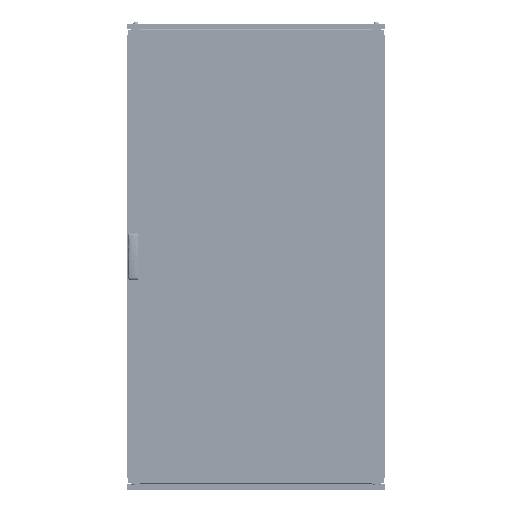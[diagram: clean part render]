
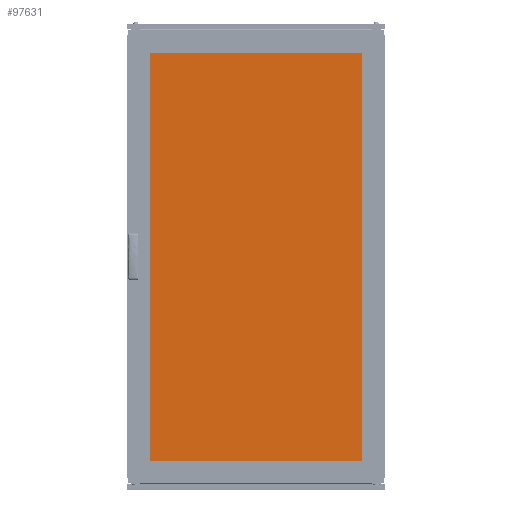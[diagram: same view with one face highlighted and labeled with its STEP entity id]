
A CAD part, top view. The second image highlights one B-rep face of the part: STEP entity #97631.
In plain terms, the highlighted planar face has unit normal (0, 0, 1).
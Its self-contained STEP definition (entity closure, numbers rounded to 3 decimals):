
#6301 = LINE ( 'NONE', #74840, #166241 ) ;
#20219 = ORIENTED_EDGE ( 'NONE', *, *, #89743, .T. ) ;
#25690 = DIRECTION ( 'NONE',  ( 1., 0., 0. ) ) ;
#26742 = CARTESIAN_POINT ( 'NONE',  ( 430., -810., 5. ) ) ;
#32625 = VECTOR ( 'NONE', #131720, 1000. ) ;
#50430 = ORIENTED_EDGE ( 'NONE', *, *, #172892, .T. ) ;
#50730 = VERTEX_POINT ( 'NONE', #152365 ) ;
#60499 = EDGE_CURVE ( 'NONE', #50730, #64653, #82592, .T. ) ;
#60650 = VERTEX_POINT ( 'NONE', #208309 ) ;
#64653 = VERTEX_POINT ( 'NONE', #88665 ) ;
#67582 = DIRECTION ( 'NONE',  ( 0., 0., -1. ) ) ;
#74840 = CARTESIAN_POINT ( 'NONE',  ( -430., -810., 5. ) ) ;
#82592 = LINE ( 'NONE', #26742, #32625 ) ;
#86972 = ORIENTED_EDGE ( 'NONE', *, *, #142155, .T. ) ;
#88665 = CARTESIAN_POINT ( 'NONE',  ( 430., 810., 5. ) ) ;
#89743 = EDGE_CURVE ( 'NONE', #64653, #60650, #121406, .T. ) ;
#97631 = ADVANCED_FACE ( 'NONE', ( #188554 ), #223972, .F. ) ;
#113344 = CARTESIAN_POINT ( 'NONE',  ( -430., -810., 5. ) ) ;
#121406 = LINE ( 'NONE', #171625, #162547 ) ;
#126904 = VERTEX_POINT ( 'NONE', #113344 ) ;
#131720 = DIRECTION ( 'NONE',  ( 0., 1., 0. ) ) ;
#137165 = DIRECTION ( 'NONE',  ( -1., 0., 0. ) ) ;
#142155 = EDGE_CURVE ( 'NONE', #126904, #50730, #6301, .T. ) ;
#143644 = CARTESIAN_POINT ( 'NONE',  ( -430., -810., 5. ) ) ;
#152365 = CARTESIAN_POINT ( 'NONE',  ( 430., -810., 5. ) ) ;
#162547 = VECTOR ( 'NONE', #190958, 1000. ) ;
#166241 = VECTOR ( 'NONE', #25690, 1000. ) ;
#171625 = CARTESIAN_POINT ( 'NONE',  ( -430., 810., 5. ) ) ;
#172892 = EDGE_CURVE ( 'NONE', #60650, #126904, #212189, .T. ) ;
#188554 = FACE_OUTER_BOUND ( 'NONE', #220813, .T. ) ;
#190958 = DIRECTION ( 'NONE',  ( -1., 0., 0. ) ) ;
#208309 = CARTESIAN_POINT ( 'NONE',  ( -430., 810., 5. ) ) ;
#212189 = LINE ( 'NONE', #143644, #225527 ) ;
#213303 = DIRECTION ( 'NONE',  ( 0., -1., 0. ) ) ;
#216352 = AXIS2_PLACEMENT_3D ( 'NONE', #225099, #67582, #137165 ) ;
#220336 = ORIENTED_EDGE ( 'NONE', *, *, #60499, .T. ) ;
#220813 = EDGE_LOOP ( 'NONE', ( #220336, #20219, #50430, #86972 ) ) ;
#223972 = PLANE ( 'NONE',  #216352 ) ;
#225099 = CARTESIAN_POINT ( 'NONE',  ( 0., 0., 5. ) ) ;
#225527 = VECTOR ( 'NONE', #213303, 1000. ) ;
